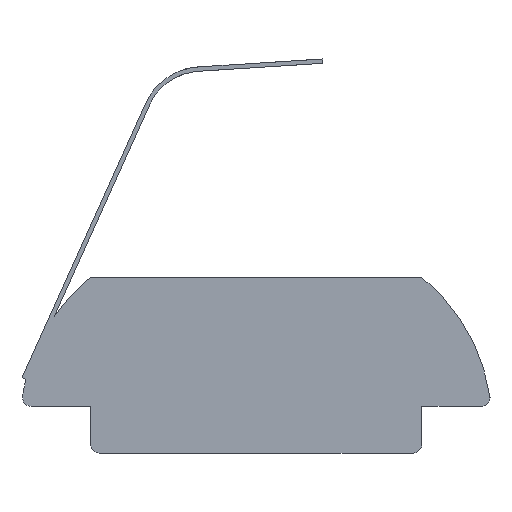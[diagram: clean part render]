
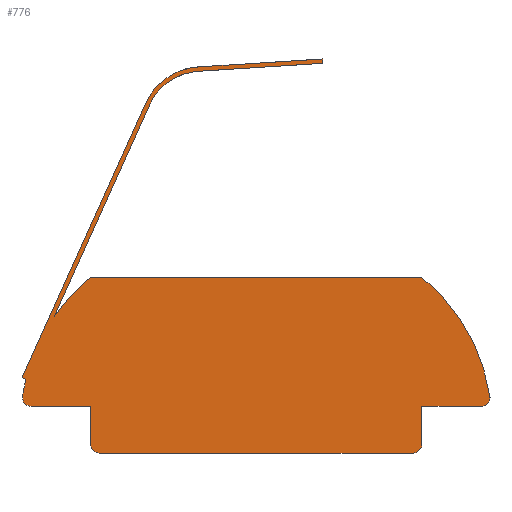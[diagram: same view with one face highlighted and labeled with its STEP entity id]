
A CAD part, left-side view. The second image highlights one B-rep face of the part: STEP entity #776.
In plain terms, the highlighted planar face has unit normal (-1, 0, 0).
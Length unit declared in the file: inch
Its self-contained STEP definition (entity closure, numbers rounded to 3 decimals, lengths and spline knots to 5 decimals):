
#118=CARTESIAN_POINT('',(-0.3937,0.05231,
-0.06907));
#119=DIRECTION('',(-1.,0.,0.));
#120=DIRECTION('',(0.,0.632,0.775));
#121=AXIS2_PLACEMENT_3D('',#118,#119,#120);
#123=DIRECTION('',(0.,1.,0.));
#124=VECTOR('',#123,0.3825);
#125=CARTESIAN_POINT('',(-0.3937,-0.19125,0.1015));
#126=LINE('',#125,#124);
#127=CARTESIAN_POINT('',(-0.3937,-0.05231,
-0.06907));
#128=DIRECTION('',(-1.,0.,0.));
#129=DIRECTION('',(0.,-0.989,0.15));
#130=AXIS2_PLACEMENT_3D('',#127,#128,#129);
#132=CARTESIAN_POINT('',(-0.3937,-0.25992,-0.0375));
#133=DIRECTION('',(-1.,0.,0.));
#134=DIRECTION('',(0.,0.,-1.));
#135=AXIS2_PLACEMENT_3D('',#132,#133,#134);
#137=DIRECTION('',(0.,-1.,0.));
#138=VECTOR('',#137,0.06867);
#139=CARTESIAN_POINT('',(-0.3937,-0.19125,-0.0475));
#140=LINE('',#139,#138);
#141=DIRECTION('',(0.,0.,1.));
#142=VECTOR('',#141,0.044);
#143=CARTESIAN_POINT('',(-0.3937,-0.19125,-0.0915));
#144=LINE('',#143,#142);
#145=CARTESIAN_POINT('',(-0.3937,-0.18125,-0.0915));
#146=DIRECTION('',(-1.,0.,0.));
#147=DIRECTION('',(0.,0.,-1.));
#148=AXIS2_PLACEMENT_3D('',#145,#146,#147);
#150=DIRECTION('',(0.,-1.,0.));
#151=VECTOR('',#150,0.3625);
#152=CARTESIAN_POINT('',(-0.3937,0.18125,-0.1015));
#153=LINE('',#152,#151);
#154=CARTESIAN_POINT('',(-0.3937,0.18125,-0.0915));
#155=DIRECTION('',(-1.,0.,0.));
#156=DIRECTION('',(0.,1.,0.));
#157=AXIS2_PLACEMENT_3D('',#154,#155,#156);
#159=DIRECTION('',(0.,0.,-1.));
#160=VECTOR('',#159,0.044);
#161=CARTESIAN_POINT('',(-0.3937,0.19125,-0.0475));
#162=LINE('',#161,#160);
#163=DIRECTION('',(0.,-1.,0.));
#164=VECTOR('',#163,0.06867);
#165=CARTESIAN_POINT('',(-0.3937,0.25992,-0.0475));
#166=LINE('',#165,#164);
#167=CARTESIAN_POINT('',(-0.3937,0.25992,-0.0375));
#168=DIRECTION('',(-1.,0.,0.));
#169=DIRECTION('',(0.,0.989,0.15));
#170=AXIS2_PLACEMENT_3D('',#167,#168,#169);
#172=CARTESIAN_POINT('',(-0.3937,0.05231,
-0.06907));
#173=DIRECTION('',(-1.,0.,0.));
#174=DIRECTION('',(0.,0.971,0.239));
#175=AXIS2_PLACEMENT_3D('',#172,#173,#174);
#177=DIRECTION('',(0.,-0.912,-0.411));
#178=VECTOR('',#177,0.005);
#179=CARTESIAN_POINT('',(-0.3937,0.2705,
-0.01445));
#180=LINE('',#179,#178);
#181=DIRECTION('',(0.,0.411,-0.912));
#182=VECTOR('',#181,0.35011);
#183=CARTESIAN_POINT('',(-0.3937,0.12677,
0.3048));
#184=LINE('',#183,#182);
#185=CARTESIAN_POINT('',(-0.3937,0.06243,
0.27248));
#186=DIRECTION('',(-1.,0.,0.));
#187=DIRECTION('',(0.,0.037,0.999));
#188=AXIS2_PLACEMENT_3D('',#185,#186,#187);
#190=DIRECTION('',(0.,0.998,-0.064));
#191=VECTOR('',#190,0.14193);
#192=CARTESIAN_POINT('',(-0.3937,-0.07655,
0.35349));
#193=LINE('',#192,#191);
#194=DIRECTION('',(0.,0.064,0.998));
#195=VECTOR('',#194,0.005);
#196=CARTESIAN_POINT('',(-0.3937,-0.07687,0.3485));
#197=LINE('',#196,#195);
#198=DIRECTION('',(0.,-0.998,0.064));
#199=VECTOR('',#198,0.142);
#200=CARTESIAN_POINT('',(-0.3937,0.06484,
0.33944));
#201=LINE('',#200,#199);
#202=CARTESIAN_POINT('',(-0.3937,0.06243,
0.27248));
#203=DIRECTION('',(1.,0.,0.));
#204=DIRECTION('',(0.,0.893,0.45));
#205=AXIS2_PLACEMENT_3D('',#202,#203,#204);
#207=DIRECTION('',(0.,-0.411,0.912));
#208=VECTOR('',#207,0.27049);
#209=CARTESIAN_POINT('',(-0.3937,0.2333,
0.056));
#210=LINE('',#209,#208);
#423=CARTESIAN_POINT('',(-0.3937,0.18125,-0.1015));
#424=CARTESIAN_POINT('',(-0.3937,-0.18125,-0.1015));
#425=VERTEX_POINT('',#423);
#426=VERTEX_POINT('',#424);
#429=CARTESIAN_POINT('',(-0.3937,0.2333,
0.056));
#430=VERTEX_POINT('',#429);
#436=CARTESIAN_POINT('',(-0.3937,0.25992,-0.0475));
#438=VERTEX_POINT('',#436);
#443=CARTESIAN_POINT('',(-0.3937,-0.25992,-0.0475));
#445=VERTEX_POINT('',#443);
#467=CARTESIAN_POINT('',(-0.3937,-0.07687,0.3485));
#468=CARTESIAN_POINT('',(-0.3937,-0.07655,
0.35349));
#469=VERTEX_POINT('',#467);
#470=VERTEX_POINT('',#468);
#471=CARTESIAN_POINT('',(-0.3937,-0.26981,
-0.036));
#472=VERTEX_POINT('',#471);
#478=CARTESIAN_POINT('',(-0.3937,0.19125,-0.0915));
#479=VERTEX_POINT('',#478);
#482=CARTESIAN_POINT('',(-0.3937,0.12226,
0.30265));
#483=CARTESIAN_POINT('',(-0.3937,0.06484,
0.33944));
#484=VERTEX_POINT('',#482);
#485=VERTEX_POINT('',#483);
#488=CARTESIAN_POINT('',(-0.3937,0.26981,
-0.036));
#489=VERTEX_POINT('',#488);
#495=CARTESIAN_POINT('',(-0.3937,-0.19125,0.1015));
#496=VERTEX_POINT('',#495);
#497=CARTESIAN_POINT('',(-0.3937,0.19125,-0.0475));
#498=VERTEX_POINT('',#497);
#501=CARTESIAN_POINT('',(-0.3937,-0.19125,-0.0915));
#502=VERTEX_POINT('',#501);
#505=CARTESIAN_POINT('',(-0.3937,-0.19125,-0.0475));
#506=VERTEX_POINT('',#505);
#510=CARTESIAN_POINT('',(-0.3937,0.26594,-0.0165));
#511=VERTEX_POINT('',#510);
#516=CARTESIAN_POINT('',(-0.3937,0.06509,
0.34444));
#517=CARTESIAN_POINT('',(-0.3937,0.12677,
0.3048));
#518=VERTEX_POINT('',#516);
#519=VERTEX_POINT('',#517);
#520=CARTESIAN_POINT('',(-0.3937,0.2705,
-0.01445));
#521=VERTEX_POINT('',#520);
#522=CARTESIAN_POINT('',(-0.3937,0.19125,0.1015));
#523=VERTEX_POINT('',#522);
#734=CARTESIAN_POINT('',(-0.3937,0.05231,
-0.06907));
#735=DIRECTION('',(-1.,0.,0.));
#736=DIRECTION('',(0.,0.,1.));
#737=AXIS2_PLACEMENT_3D('',#734,#735,#736);
#738=PLANE('',#737);
#740=ORIENTED_EDGE('',*,*,#739,.F.);
#742=ORIENTED_EDGE('',*,*,#741,.F.);
#744=ORIENTED_EDGE('',*,*,#743,.F.);
#746=ORIENTED_EDGE('',*,*,#745,.F.);
#748=ORIENTED_EDGE('',*,*,#747,.F.);
#750=ORIENTED_EDGE('',*,*,#749,.F.);
#752=ORIENTED_EDGE('',*,*,#751,.F.);
#754=ORIENTED_EDGE('',*,*,#753,.F.);
#756=ORIENTED_EDGE('',*,*,#755,.F.);
#758=ORIENTED_EDGE('',*,*,#757,.F.);
#760=ORIENTED_EDGE('',*,*,#759,.F.);
#762=ORIENTED_EDGE('',*,*,#761,.F.);
#763=ORIENTED_EDGE('',*,*,#712,.F.);
#764=ORIENTED_EDGE('',*,*,#725,.F.);
#766=ORIENTED_EDGE('',*,*,#765,.F.);
#767=ORIENTED_EDGE('',*,*,#564,.F.);
#768=ORIENTED_EDGE('',*,*,#583,.F.);
#769=ORIENTED_EDGE('',*,*,#600,.F.);
#770=ORIENTED_EDGE('',*,*,#615,.F.);
#771=ORIENTED_EDGE('',*,*,#636,.F.);
#773=ORIENTED_EDGE('',*,*,#772,.F.);
#774=EDGE_LOOP('',(#740,#742,#744,#746,#748,#750,#752,#754,#756,#758,#760,#762,
#763,#764,#766,#767,#768,#769,#770,#771,#773));
#775=FACE_OUTER_BOUND('',#774,.F.);
#122=CIRCLE('',#121,0.22);
#131=CIRCLE('',#130,0.22);
#136=CIRCLE('',#135,0.01);
#149=CIRCLE('',#148,0.01);
#158=CIRCLE('',#157,0.01);
#171=CIRCLE('',#170,0.01);
#176=CIRCLE('',#175,0.22);
#189=CIRCLE('',#188,0.072);
#206=CIRCLE('',#205,0.067);
#564=EDGE_CURVE('',#518,#519,#189,.T.);
#583=EDGE_CURVE('',#470,#518,#193,.T.);
#600=EDGE_CURVE('',#469,#470,#197,.T.);
#615=EDGE_CURVE('',#485,#469,#201,.T.);
#636=EDGE_CURVE('',#484,#485,#206,.T.);
#712=EDGE_CURVE('',#511,#489,#176,.T.);
#725=EDGE_CURVE('',#521,#511,#180,.T.);
#739=EDGE_CURVE('',#523,#430,#122,.T.);
#741=EDGE_CURVE('',#496,#523,#126,.T.);
#743=EDGE_CURVE('',#472,#496,#131,.T.);
#745=EDGE_CURVE('',#445,#472,#136,.T.);
#747=EDGE_CURVE('',#506,#445,#140,.T.);
#749=EDGE_CURVE('',#502,#506,#144,.T.);
#751=EDGE_CURVE('',#426,#502,#149,.T.);
#753=EDGE_CURVE('',#425,#426,#153,.T.);
#755=EDGE_CURVE('',#479,#425,#158,.T.);
#757=EDGE_CURVE('',#498,#479,#162,.T.);
#759=EDGE_CURVE('',#438,#498,#166,.T.);
#761=EDGE_CURVE('',#489,#438,#171,.T.);
#765=EDGE_CURVE('',#519,#521,#184,.T.);
#772=EDGE_CURVE('',#430,#484,#210,.T.);
#776=ADVANCED_FACE('',(#775),#738,.T.);
